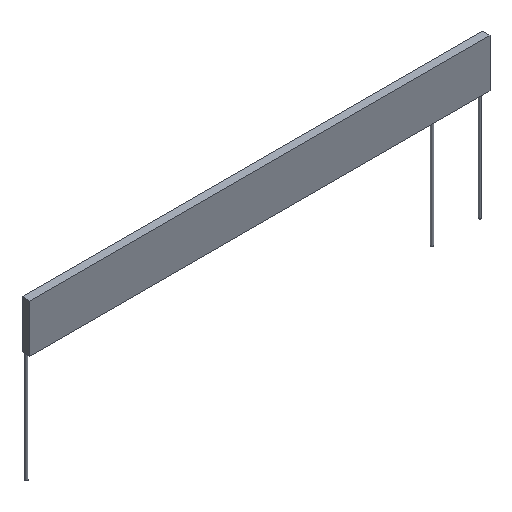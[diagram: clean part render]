
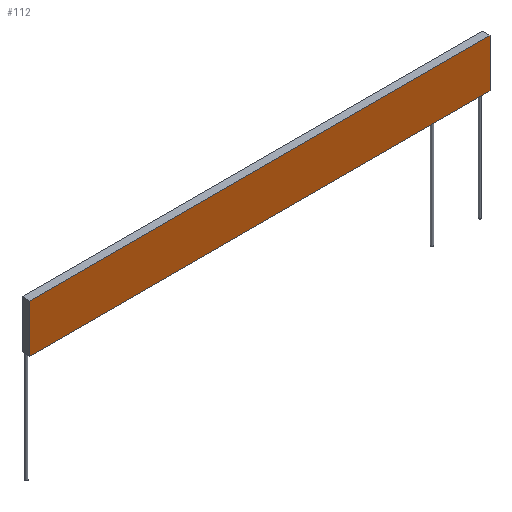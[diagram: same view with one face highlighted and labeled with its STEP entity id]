
A CAD part, isometric view. The second image highlights one B-rep face of the part: STEP entity #112.
In plain terms, the highlighted planar face has unit normal (0, -1, 0).
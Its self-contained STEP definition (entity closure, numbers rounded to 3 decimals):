
#112=ADVANCED_FACE('',(#214),#216,.T.);
#214=FACE_BOUND('',#215,.T.);
#215=EDGE_LOOP('',(#289,#290,#291,#292));
#216=PLANE('',#217);
#217=AXIS2_PLACEMENT_3D('',#218,#219,#220);
#218=CARTESIAN_POINT('',(-72.,-1.25,0.));
#219=DIRECTION('',(0.,-1.,0.));
#220=DIRECTION('',(1.,0.,0.));
#289=ORIENTED_EDGE('',*,*,#308,.T.);
#290=ORIENTED_EDGE('',*,*,#324,.T.);
#291=ORIENTED_EDGE('',*,*,#325,.F.);
#292=ORIENTED_EDGE('',*,*,#326,.F.);
#308=EDGE_CURVE('',#336,#334,#337,.T.);
#324=EDGE_CURVE('',#334,#362,#364,.T.);
#325=EDGE_CURVE('',#365,#362,#366,.T.);
#326=EDGE_CURVE('',#336,#365,#367,.T.);
#334=VERTEX_POINT('',#383);
#336=VERTEX_POINT('',#387);
#337=LINE('',#388,#389);
#362=VERTEX_POINT('',#450);
#364=LINE('',#454,#455);
#365=VERTEX_POINT('',#457);
#366=LINE('',#458,#459);
#367=LINE('',#461,#462);
#383=CARTESIAN_POINT('',(72.,-1.25,0.));
#387=CARTESIAN_POINT('',(-72.,-1.25,0.));
#388=CARTESIAN_POINT('',(-72.,-1.25,0.));
#389=VECTOR('',#390,1.);
#390=DIRECTION('',(1.,0.,0.));
#450=CARTESIAN_POINT('',(72.,-1.25,15.));
#454=CARTESIAN_POINT('',(72.,-1.25,0.));
#455=VECTOR('',#456,1.);
#456=DIRECTION('',(0.,0.,1.));
#457=CARTESIAN_POINT('',(-72.,-1.25,15.));
#458=CARTESIAN_POINT('',(-72.,-1.25,15.));
#459=VECTOR('',#460,1.);
#460=DIRECTION('',(1.,0.,0.));
#461=CARTESIAN_POINT('',(-72.,-1.25,0.));
#462=VECTOR('',#463,1.);
#463=DIRECTION('',(0.,0.,1.));
